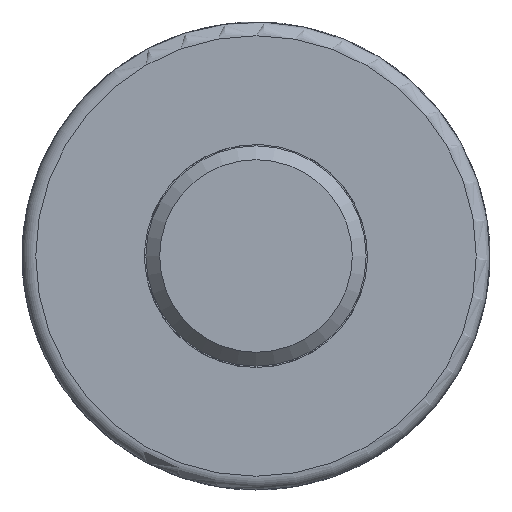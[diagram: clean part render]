
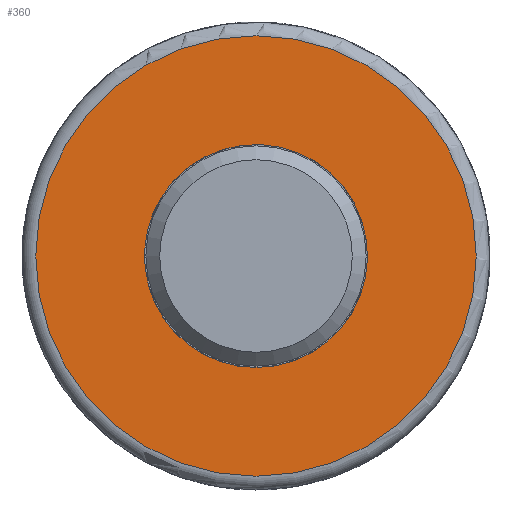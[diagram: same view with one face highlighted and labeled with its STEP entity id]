
A CAD part, front view. The second image highlights one B-rep face of the part: STEP entity #360.
In plain terms, the highlighted planar face has unit normal (0, -1, 0).
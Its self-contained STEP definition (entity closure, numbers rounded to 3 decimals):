
#203=FACE_BOUND('',#495,.T.);
#204=FACE_BOUND('',#496,.T.);
#360=ADVANCED_FACE('',(#203,#204),#395,.T.);
#395=PLANE('',#1107);
#495=EDGE_LOOP('',(#717));
#496=EDGE_LOOP('',(#718));
#717=ORIENTED_EDGE('',*,*,#1006,.T.);
#718=ORIENTED_EDGE('',*,*,#999,.F.);
#875=VERTEX_POINT('',#2455);
#876=VERTEX_POINT('',#2466);
#999=EDGE_CURVE('',#875,#875,#1025,.T.);
#1006=EDGE_CURVE('',#876,#876,#1032,.T.);
#1025=CIRCLE('',#1096,4.05);
#1032=CIRCLE('',#1106,8.);
#1096=AXIS2_PLACEMENT_3D('',#2454,#1295,#1296);
#1106=AXIS2_PLACEMENT_3D('',#2465,#1315,#1316);
#1107=AXIS2_PLACEMENT_3D('',#2467,#1317,#1318);
#1295=DIRECTION('',(0.,-1.,0.));
#1296=DIRECTION('',(0.,0.,-1.));
#1315=DIRECTION('',(0.,-1.,0.));
#1316=DIRECTION('',(0.,0.,-1.));
#1317=DIRECTION('',(0.,-1.,0.));
#1318=DIRECTION('',(1.,0.,0.));
#2454=CARTESIAN_POINT('',(0.,-27.978,0.022));
#2455=CARTESIAN_POINT('',(0.,-27.978,-4.028));
#2465=CARTESIAN_POINT('',(0.,-27.978,0.022));
#2466=CARTESIAN_POINT('',(0.,-27.978,-7.978));
#2467=CARTESIAN_POINT('',(0.,-27.978,0.022));
